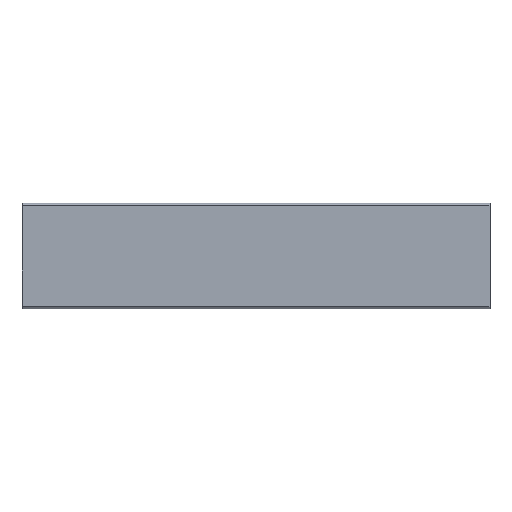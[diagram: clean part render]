
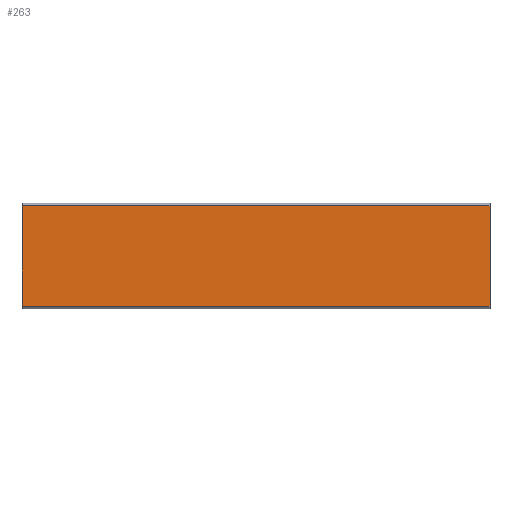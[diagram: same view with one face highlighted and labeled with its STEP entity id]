
A CAD part, top view. The second image highlights one B-rep face of the part: STEP entity #263.
In plain terms, the highlighted planar face has unit normal (0, 0, 1).
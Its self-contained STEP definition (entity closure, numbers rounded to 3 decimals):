
#30 = EDGE_LOOP ( 'NONE', ( #232, #1441, #348, #624 ) ) ;
#44 = CARTESIAN_POINT ( 'NONE',  ( 200., -21.5, 22.5 ) ) ;
#209 = VECTOR ( 'NONE', #794, 1000. ) ;
#210 = VERTEX_POINT ( 'NONE', #1595 ) ;
#232 = ORIENTED_EDGE ( 'NONE', *, *, #383, .F. ) ;
#234 = DIRECTION ( 'NONE',  ( 0., 1., 0. ) ) ;
#239 = DIRECTION ( 'NONE',  ( 0., -1., 0. ) ) ;
#263 = ADVANCED_FACE ( 'NONE', ( #461 ), #953, .F. ) ;
#287 = CARTESIAN_POINT ( 'NONE',  ( 200., 21.5, 22.5 ) ) ;
#310 = CARTESIAN_POINT ( 'NONE',  ( 200., -21.5, 22.5 ) ) ;
#327 = EDGE_CURVE ( 'NONE', #509, #634, #582, .T. ) ;
#348 = ORIENTED_EDGE ( 'NONE', *, *, #327, .F. ) ;
#383 = EDGE_CURVE ( 'NONE', #210, #1308, #959, .T. ) ;
#398 = DIRECTION ( 'NONE',  ( -1., 0., 0. ) ) ;
#461 = FACE_OUTER_BOUND ( 'NONE', #30, .T. ) ;
#475 = CARTESIAN_POINT ( 'NONE',  ( 0., 21.5, 22.5 ) ) ;
#501 = EDGE_CURVE ( 'NONE', #509, #1308, #999, .T. ) ;
#509 = VERTEX_POINT ( 'NONE', #287 ) ;
#516 = LINE ( 'NONE', #310, #209 ) ;
#582 = LINE ( 'NONE', #1074, #1436 ) ;
#623 = DIRECTION ( 'NONE',  ( 0., 1., 0. ) ) ;
#624 = ORIENTED_EDGE ( 'NONE', *, *, #501, .T. ) ;
#634 = VERTEX_POINT ( 'NONE', #44 ) ;
#667 = VECTOR ( 'NONE', #623, 1000. ) ;
#794 = DIRECTION ( 'NONE',  ( 1., 0., 0. ) ) ;
#903 = CARTESIAN_POINT ( 'NONE',  ( 200., 21.5, 22.5 ) ) ;
#953 = PLANE ( 'NONE',  #1269 ) ;
#959 = LINE ( 'NONE', #1337, #667 ) ;
#999 = LINE ( 'NONE', #903, #1566 ) ;
#1074 = CARTESIAN_POINT ( 'NONE',  ( 200., 22.5, 22.5 ) ) ;
#1269 = AXIS2_PLACEMENT_3D ( 'NONE', #1353, #1487, #234 ) ;
#1308 = VERTEX_POINT ( 'NONE', #475 ) ;
#1337 = CARTESIAN_POINT ( 'NONE',  ( 0., 0., 22.5 ) ) ;
#1353 = CARTESIAN_POINT ( 'NONE',  ( 200., 22.5, 22.5 ) ) ;
#1436 = VECTOR ( 'NONE', #239, 1000. ) ;
#1441 = ORIENTED_EDGE ( 'NONE', *, *, #1546, .T. ) ;
#1487 = DIRECTION ( 'NONE',  ( 0., 0., -1. ) ) ;
#1546 = EDGE_CURVE ( 'NONE', #210, #634, #516, .T. ) ;
#1566 = VECTOR ( 'NONE', #398, 1000. ) ;
#1595 = CARTESIAN_POINT ( 'NONE',  ( 0., -21.5, 22.5 ) ) ;
